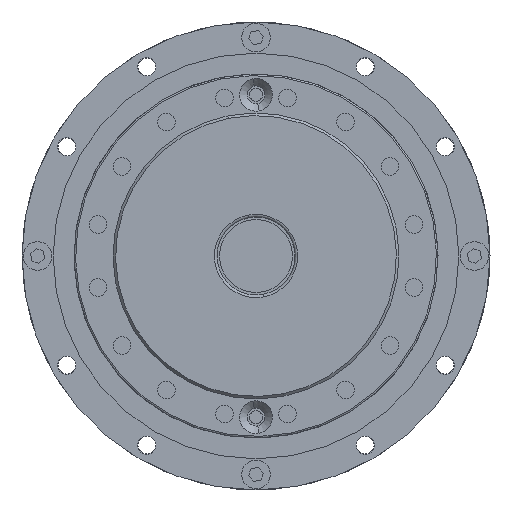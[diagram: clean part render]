
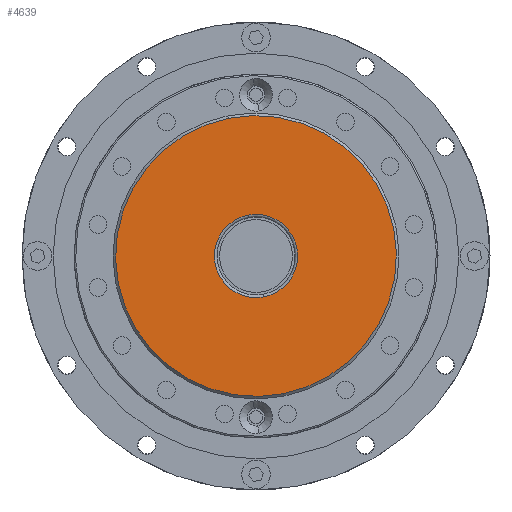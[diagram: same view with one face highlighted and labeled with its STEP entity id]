
A CAD part, left-side view. The second image highlights one B-rep face of the part: STEP entity #4639.
In plain terms, the highlighted planar face has unit normal (-1, 0, 0).
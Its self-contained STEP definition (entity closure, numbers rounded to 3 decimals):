
#198 = CARTESIAN_POINT ( 'NONE',  ( -38., 0., 0. ) ) ;
#612 = ORIENTED_EDGE ( 'NONE', *, *, #24472, .T. ) ;
#1158 = PLANE ( 'NONE',  #30264 ) ;
#1316 = VERTEX_POINT ( 'NONE', #19151 ) ;
#4542 = DIRECTION ( 'NONE',  ( 0., -0.195, -0.981 ) ) ;
#4639 = ADVANCED_FACE ( 'NONE', ( #14105, #24490 ), #1158, .T. ) ;
#6471 = AXIS2_PLACEMENT_3D ( 'NONE', #14214, #24597, #31071 ) ;
#7591 = ORIENTED_EDGE ( 'NONE', *, *, #27131, .T. ) ;
#7976 = CIRCLE ( 'NONE', #17793, 8. ) ;
#9808 = DIRECTION ( 'NONE',  ( 1., 0., 0. ) ) ;
#10821 = CIRCLE ( 'NONE', #6471, 8. ) ;
#11707 = CIRCLE ( 'NONE', #30751, 27. ) ;
#11988 = ORIENTED_EDGE ( 'NONE', *, *, #26070, .T. ) ;
#12555 = CARTESIAN_POINT ( 'NONE',  ( -38., 0., 0. ) ) ;
#12996 = DIRECTION ( 'NONE',  ( 0., -0.195, -0.981 ) ) ;
#13438 = EDGE_CURVE ( 'NONE', #17506, #1316, #11707, .T. ) ;
#14105 = FACE_BOUND ( 'NONE', #33132, .T. ) ;
#14214 = CARTESIAN_POINT ( 'NONE',  ( -38., 0., 0. ) ) ;
#14433 = DIRECTION ( 'NONE',  ( -1., 0., 0. ) ) ;
#14588 = CARTESIAN_POINT ( 'NONE',  ( -38., 1.561, 7.846 ) ) ;
#15372 = DIRECTION ( 'NONE',  ( -1., 0., 0. ) ) ;
#15655 = CARTESIAN_POINT ( 'NONE',  ( -38., -5.267, -26.481 ) ) ;
#16852 = AXIS2_PLACEMENT_3D ( 'NONE', #18046, #28592, #33694 ) ;
#17506 = VERTEX_POINT ( 'NONE', #15655 ) ;
#17793 = AXIS2_PLACEMENT_3D ( 'NONE', #12555, #9808, #20374 ) ;
#18046 = CARTESIAN_POINT ( 'NONE',  ( -38., 0., 0. ) ) ;
#19151 = CARTESIAN_POINT ( 'NONE',  ( -38., 5.267, 26.481 ) ) ;
#20374 = DIRECTION ( 'NONE',  ( 0., -0.195, -0.981 ) ) ;
#22957 = VERTEX_POINT ( 'NONE', #14588 ) ;
#23925 = CIRCLE ( 'NONE', #16852, 27. ) ;
#24472 = EDGE_CURVE ( 'NONE', #26491, #22957, #7976, .T. ) ;
#24490 = FACE_OUTER_BOUND ( 'NONE', #31698, .T. ) ;
#24597 = DIRECTION ( 'NONE',  ( 1., 0., 0. ) ) ;
#24649 = CARTESIAN_POINT ( 'NONE',  ( -38., 0., 0. ) ) ;
#26070 = EDGE_CURVE ( 'NONE', #22957, #26491, #10821, .T. ) ;
#26491 = VERTEX_POINT ( 'NONE', #32888 ) ;
#27131 = EDGE_CURVE ( 'NONE', #1316, #17506, #23925, .T. ) ;
#28592 = DIRECTION ( 'NONE',  ( -1., 0., 0. ) ) ;
#30264 = AXIS2_PLACEMENT_3D ( 'NONE', #24649, #14433, #4542 ) ;
#30751 = AXIS2_PLACEMENT_3D ( 'NONE', #198, #15372, #12996 ) ;
#31071 = DIRECTION ( 'NONE',  ( 0., -0.195, -0.981 ) ) ;
#31269 = ORIENTED_EDGE ( 'NONE', *, *, #13438, .T. ) ;
#31698 = EDGE_LOOP ( 'NONE', ( #7591, #31269 ) ) ;
#32888 = CARTESIAN_POINT ( 'NONE',  ( -38., -1.561, -7.846 ) ) ;
#33132 = EDGE_LOOP ( 'NONE', ( #612, #11988 ) ) ;
#33694 = DIRECTION ( 'NONE',  ( 0., -0.195, -0.981 ) ) ;
